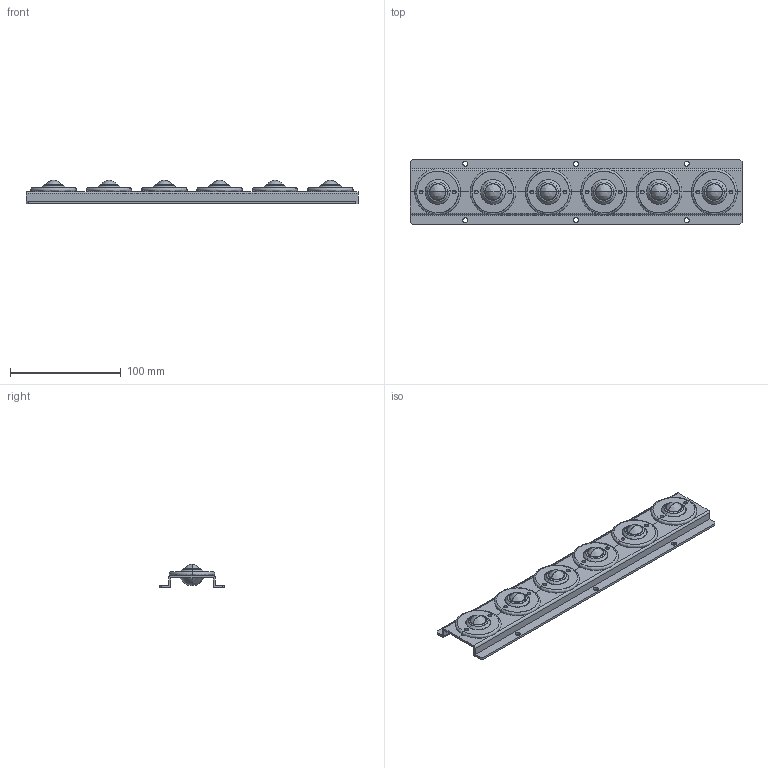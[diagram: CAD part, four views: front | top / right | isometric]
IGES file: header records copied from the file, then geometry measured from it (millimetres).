
Global section: file name: E:\UnigraphicsGraphicData\MISUMI_PRESS-PARTS\IGES\3d_goro-6_03802_r00.igs; native system: NX V5.0; preprocessor: UGS NX IGES V5.0; author: MISUMI; date: 20110105.160733; units: millimetre
Bounding box: 300 x 59 x 21 mm (x, y, z)
Surface area: 52602.2 mm2 (no closed solid volume)
Topology: 0 solids, 0 shells, 168 faces, 1316 edges, 1292 vertices
Faces by surface type: bspline 168
